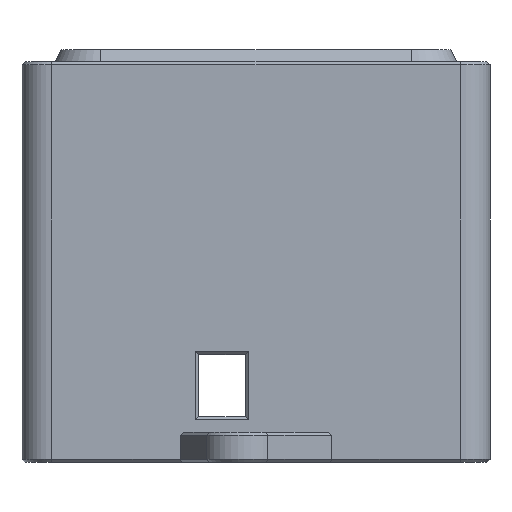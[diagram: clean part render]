
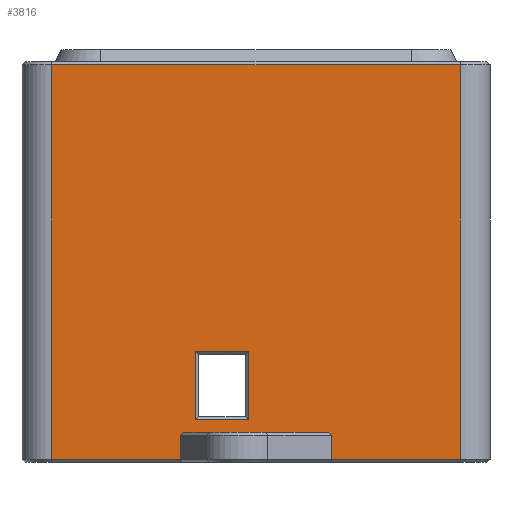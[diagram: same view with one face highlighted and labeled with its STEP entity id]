
A CAD part, front view. The second image highlights one B-rep face of the part: STEP entity #3816.
In plain terms, the highlighted planar face has unit normal (0, -1, 0).
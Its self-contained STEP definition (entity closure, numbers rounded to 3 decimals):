
#86=FACE_BOUND('',#704,.T.);
#481=FACE_OUTER_BOUND('',#703,.T.);
#703=EDGE_LOOP('',(#2674,#2675,#2676,#2677,#2678,#2679,#2680,#2681,#2682,
#2683));
#704=EDGE_LOOP('',(#2684,#2685,#2686,#2687));
#952=LINE('',#5587,#1351);
#960=LINE('',#5611,#1359);
#961=LINE('',#5613,#1360);
#962=LINE('',#5615,#1361);
#963=LINE('',#5617,#1362);
#964=LINE('',#5619,#1363);
#965=LINE('',#5621,#1364);
#966=LINE('',#5623,#1365);
#967=LINE('',#5625,#1366);
#968=LINE('',#5626,#1367);
#969=LINE('',#5629,#1368);
#970=LINE('',#5631,#1369);
#971=LINE('',#5633,#1370);
#972=LINE('',#5634,#1371);
#1351=VECTOR('',#4505,10.);
#1359=VECTOR('',#4531,10.);
#1360=VECTOR('',#4532,10.);
#1361=VECTOR('',#4533,10.);
#1362=VECTOR('',#4534,10.);
#1363=VECTOR('',#4535,10.);
#1364=VECTOR('',#4536,10.);
#1365=VECTOR('',#4537,10.);
#1366=VECTOR('',#4538,10.);
#1367=VECTOR('',#4539,10.);
#1368=VECTOR('',#4540,10.);
#1369=VECTOR('',#4541,10.);
#1370=VECTOR('',#4542,10.);
#1371=VECTOR('',#4543,10.);
#1756=VERTEX_POINT('',#5577);
#1758=VERTEX_POINT('',#5583);
#1766=VERTEX_POINT('',#5610);
#1767=VERTEX_POINT('',#5612);
#1768=VERTEX_POINT('',#5614);
#1769=VERTEX_POINT('',#5616);
#1770=VERTEX_POINT('',#5618);
#1771=VERTEX_POINT('',#5620);
#1772=VERTEX_POINT('',#5622);
#1773=VERTEX_POINT('',#5624);
#1774=VERTEX_POINT('',#5627);
#1775=VERTEX_POINT('',#5628);
#1776=VERTEX_POINT('',#5630);
#1777=VERTEX_POINT('',#5632);
#2097=EDGE_CURVE('',#1756,#1758,#952,.T.);
#2109=EDGE_CURVE('',#1766,#1756,#960,.T.);
#2110=EDGE_CURVE('',#1767,#1766,#961,.T.);
#2111=EDGE_CURVE('',#1767,#1768,#962,.T.);
#2112=EDGE_CURVE('',#1769,#1768,#963,.F.);
#2113=EDGE_CURVE('',#1769,#1770,#964,.T.);
#2114=EDGE_CURVE('',#1771,#1770,#965,.F.);
#2115=EDGE_CURVE('',#1771,#1772,#966,.T.);
#2116=EDGE_CURVE('',#1773,#1772,#967,.T.);
#2117=EDGE_CURVE('',#1758,#1773,#968,.T.);
#2118=EDGE_CURVE('',#1774,#1775,#969,.T.);
#2119=EDGE_CURVE('',#1776,#1774,#970,.T.);
#2120=EDGE_CURVE('',#1777,#1776,#971,.T.);
#2121=EDGE_CURVE('',#1775,#1777,#972,.T.);
#2674=ORIENTED_EDGE('',*,*,#2097,.F.);
#2675=ORIENTED_EDGE('',*,*,#2109,.F.);
#2676=ORIENTED_EDGE('',*,*,#2110,.F.);
#2677=ORIENTED_EDGE('',*,*,#2111,.T.);
#2678=ORIENTED_EDGE('',*,*,#2112,.F.);
#2679=ORIENTED_EDGE('',*,*,#2113,.T.);
#2680=ORIENTED_EDGE('',*,*,#2114,.F.);
#2681=ORIENTED_EDGE('',*,*,#2115,.T.);
#2682=ORIENTED_EDGE('',*,*,#2116,.F.);
#2683=ORIENTED_EDGE('',*,*,#2117,.F.);
#2684=ORIENTED_EDGE('',*,*,#2118,.F.);
#2685=ORIENTED_EDGE('',*,*,#2119,.F.);
#2686=ORIENTED_EDGE('',*,*,#2120,.F.);
#2687=ORIENTED_EDGE('',*,*,#2121,.F.);
#3650=PLANE('',#4088);
#3816=ADVANCED_FACE('',(#481,#86),#3650,.T.);
#4088=AXIS2_PLACEMENT_3D('',#5609,#4529,#4530);
#4505=DIRECTION('',(1.,0.,0.));
#4529=DIRECTION('center_axis',(0.,-1.,0.));
#4530=DIRECTION('ref_axis',(1.,0.,0.));
#4531=DIRECTION('',(0.,0.,1.));
#4532=DIRECTION('',(-1.,0.,0.));
#4533=DIRECTION('',(0.,0.,1.));
#4534=DIRECTION('',(0.744,0.,0.669));
#4535=DIRECTION('',(1.,0.,0.));
#4536=DIRECTION('',(0.815,0.,-0.579));
#4537=DIRECTION('',(0.,0.,-1.));
#4538=DIRECTION('',(-1.,0.,0.));
#4539=DIRECTION('',(0.,0.,-1.));
#4540=DIRECTION('',(0.,0.,1.));
#4541=DIRECTION('',(1.,0.,0.));
#4542=DIRECTION('',(0.,0.,-1.));
#4543=DIRECTION('',(-1.,0.,0.));
#5577=CARTESIAN_POINT('',(134.25,229.599,-148.699));
#5583=CARTESIAN_POINT('',(188.25,229.599,-148.699));
#5587=CARTESIAN_POINT('',(150.3,229.599,-148.699));
#5609=CARTESIAN_POINT('Origin',(139.35,229.599,-201.199));
#5610=CARTESIAN_POINT('',(134.25,229.599,-200.799));
#5611=CARTESIAN_POINT('',(134.25,229.599,-201.199));
#5612=CARTESIAN_POINT('',(151.25,229.599,-200.799));
#5613=CARTESIAN_POINT('',(150.05,229.599,-200.799));
#5614=CARTESIAN_POINT('',(151.25,229.599,-197.599));
#5615=CARTESIAN_POINT('',(151.25,229.599,-201.199));
#5616=CARTESIAN_POINT('',(151.695,229.599,-197.199));
#5617=CARTESIAN_POINT('',(147.01,229.599,-201.41));
#5618=CARTESIAN_POINT('',(170.687,229.599,-197.199));
#5619=CARTESIAN_POINT('',(149.05,229.599,-197.199));
#5620=CARTESIAN_POINT('',(171.25,229.599,-197.599));
#5621=CARTESIAN_POINT('',(157.927,229.599,-188.138));
#5622=CARTESIAN_POINT('',(171.25,229.599,-200.799));
#5623=CARTESIAN_POINT('',(171.25,229.599,-201.199));
#5624=CARTESIAN_POINT('',(188.25,229.599,-200.799));
#5625=CARTESIAN_POINT('',(150.05,229.599,-200.799));
#5626=CARTESIAN_POINT('',(188.25,229.599,-201.199));
#5627=CARTESIAN_POINT('',(160.25,229.599,-195.599));
#5628=CARTESIAN_POINT('',(160.25,229.599,-186.599));
#5629=CARTESIAN_POINT('',(160.25,229.599,-194.099));
#5630=CARTESIAN_POINT('',(153.25,229.599,-195.599));
#5631=CARTESIAN_POINT('',(149.6,229.599,-195.599));
#5632=CARTESIAN_POINT('',(153.25,229.599,-186.599));
#5633=CARTESIAN_POINT('',(153.25,229.599,-198.199));
#5634=CARTESIAN_POINT('',(146.5,229.599,-186.599));
